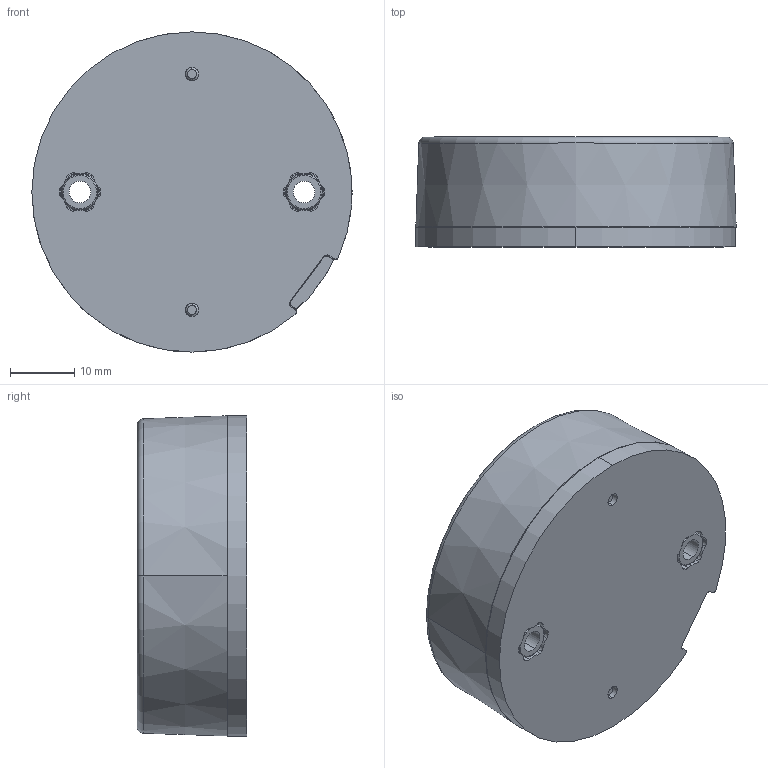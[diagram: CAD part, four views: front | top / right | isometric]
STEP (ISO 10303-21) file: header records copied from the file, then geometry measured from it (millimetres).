
FILE_DESCRIPTION (( 'STEP AP203' ), '1' );
FILE_NAME ('CTM1-12 ASSEMBLY STEP FILE.STEP', '2014-07-07T21:26:47', ( '' ), ( '' ), 'SwSTEP 2.0', 'SolidWorks 2012', '' );
FILE_SCHEMA (( 'CONFIG_CONTROL_DESIGN' ));
Length unit declared in the file: inch
Products named in the file (1): CTM1-12 ASSEMBLY STEP FILE
Bounding box: 50 x 17.14 x 50 mm (x, y, z)
Volume: 13091.5 mm3; surface area: 18293 mm2
Topology: 14 solids, 14 shells, 1559 faces, 4075 edges, 2545 vertices
Faces by surface type: plane 875, cylinder 357, cone 201, torus 86, bspline 22, sphere 18
Entity records: 50404 total; most frequent: CARTESIAN_POINT 12768, ORIENTED_EDGE 8106, DIRECTION 7459, EDGE_CURVE 4053, LINE 2701, VECTOR 2701, VERTEX_POINT 2545, AXIS2_PLACEMENT_3D 2379
